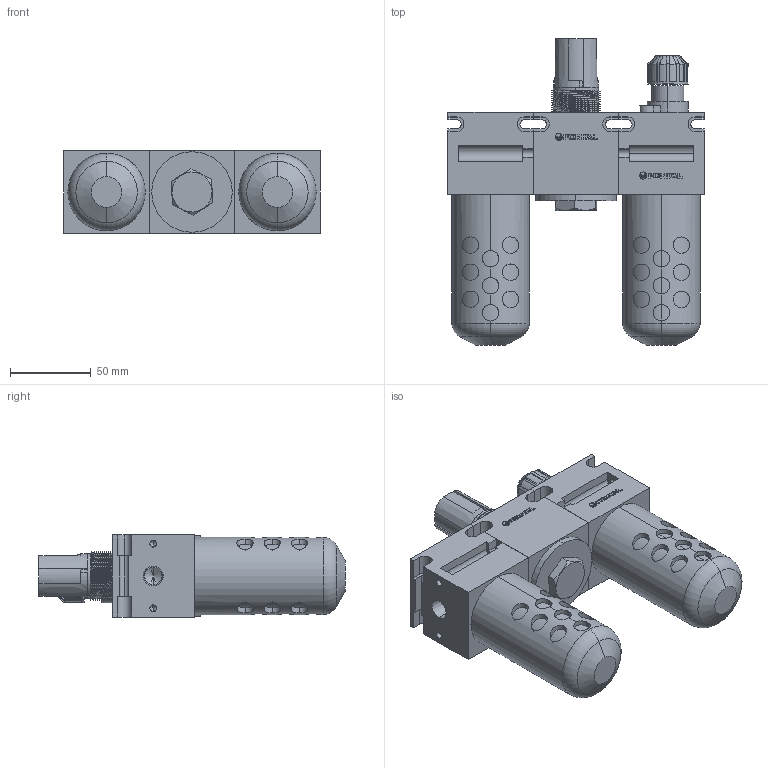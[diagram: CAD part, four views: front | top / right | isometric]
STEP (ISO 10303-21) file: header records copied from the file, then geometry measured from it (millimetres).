
FILE_DESCRIPTION (( 'STEP AP203' ), '1' );
FILE_NAME ('C55##-02#Y##.STEP', '2016-01-14T18:44:43', ( '' ), ( '' ), 'SwSTEP 2.0', 'SolidWorks 2014', '' );
FILE_SCHEMA (( 'CONFIG_CONTROL_DESIGN' ));
Length unit declared in the file: millimetre
Products named in the file (15): R55-1; R45-3; L55-02#; F55-2; R55-2; R364-5; F55; L45-1; F45-MARK; R364-4; L508-5; C55##-02#Y##; R55#-02##; L45-2; F55-1
Assembly tree (16 placements, depth 4):
  C55##-02#Y##
    F55
      F55-1
      F55-2
      F45-MARK
    R55#-02##
      R55-1
      R55-2
      R45-3
      R364-4
      R364-5
      F45-MARK
    L55-02#
      F55
        F55-1
        F55-2
        F45-MARK
      L45-2
      L508-5
      L45-1
Bounding box: 159 x 190 x 51.25 mm (x, y, z)
Volume: 729488.1 mm3; surface area: 117445.5 mm2
Topology: 33 solids, 33 shells, 837 faces, 2162 edges, 1416 vertices
Faces by surface type: plane 444, cylinder 304, cone 55, bspline 30, torus 4
Entity records: 21435 total; most frequent: CARTESIAN_POINT 7515, ORIENTED_EDGE 2634, DIRECTION 2428, EDGE_CURVE 1317, VERTEX_POINT 868, LINE 816, VECTOR 816, AXIS2_PLACEMENT_3D 806
